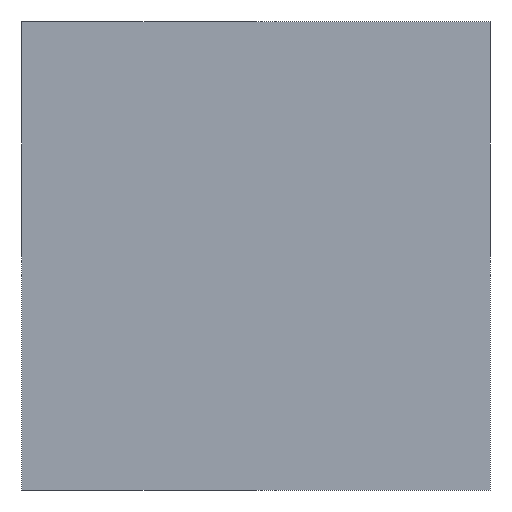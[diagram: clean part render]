
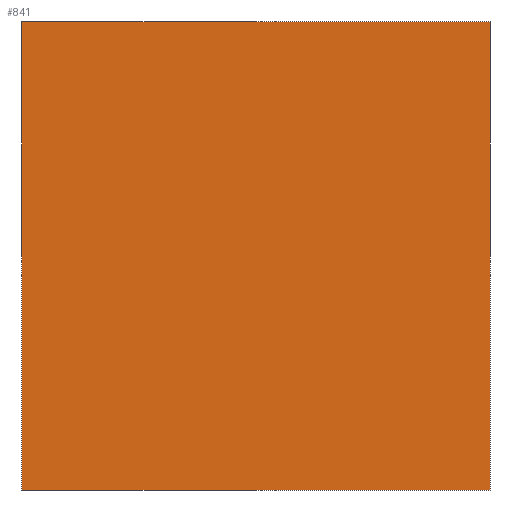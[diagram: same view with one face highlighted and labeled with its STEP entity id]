
A CAD part, front view. The second image highlights one B-rep face of the part: STEP entity #841.
In plain terms, the highlighted planar face has unit normal (0, -1, 0).
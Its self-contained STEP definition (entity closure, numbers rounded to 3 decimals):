
#96 = CARTESIAN_POINT ( 'NONE',  ( -25., -55., 50. ) ) ;
#98 = CARTESIAN_POINT ( 'NONE',  ( 25., -55., 50. ) ) ;
#154 = DIRECTION ( 'NONE',  ( 0., 0., 1. ) ) ;
#221 = ORIENTED_EDGE ( 'NONE', *, *, #799, .T. ) ;
#224 = LINE ( 'NONE', #447, #394 ) ;
#297 = VECTOR ( 'NONE', #442, 1000. ) ;
#298 = DIRECTION ( 'NONE',  ( 0., 0., -1. ) ) ;
#364 = EDGE_CURVE ( 'NONE', #677, #615, #842, .T. ) ;
#367 = ORIENTED_EDGE ( 'NONE', *, *, #571, .T. ) ;
#373 = LINE ( 'NONE', #711, #297 ) ;
#377 = PLANE ( 'NONE',  #537 ) ;
#394 = VECTOR ( 'NONE', #298, 1000. ) ;
#400 = VECTOR ( 'NONE', #868, 1000. ) ;
#418 = CARTESIAN_POINT ( 'NONE',  ( -25., -55., 50. ) ) ;
#442 = DIRECTION ( 'NONE',  ( 0., 0., -1. ) ) ;
#447 = CARTESIAN_POINT ( 'NONE',  ( -25., -55., 50. ) ) ;
#488 = VERTEX_POINT ( 'NONE', #664 ) ;
#505 = CARTESIAN_POINT ( 'NONE',  ( -25., -55., 0. ) ) ;
#517 = DIRECTION ( 'NONE',  ( 0., 1., 0. ) ) ;
#537 = AXIS2_PLACEMENT_3D ( 'NONE', #96, #517, #154 ) ;
#561 = CARTESIAN_POINT ( 'NONE',  ( -25., -55., 50. ) ) ;
#570 = VECTOR ( 'NONE', #776, 1000. ) ;
#571 = EDGE_CURVE ( 'NONE', #488, #588, #879, .T. ) ;
#588 = VERTEX_POINT ( 'NONE', #858 ) ;
#615 = VERTEX_POINT ( 'NONE', #98 ) ;
#662 = FACE_OUTER_BOUND ( 'NONE', #864, .T. ) ;
#664 = CARTESIAN_POINT ( 'NONE',  ( -25., -55., 0. ) ) ;
#677 = VERTEX_POINT ( 'NONE', #418 ) ;
#711 = CARTESIAN_POINT ( 'NONE',  ( 25., -55., 50. ) ) ;
#730 = ORIENTED_EDGE ( 'NONE', *, *, #883, .F. ) ;
#751 = ORIENTED_EDGE ( 'NONE', *, *, #364, .F. ) ;
#776 = DIRECTION ( 'NONE',  ( 1., 0., 0. ) ) ;
#799 = EDGE_CURVE ( 'NONE', #677, #488, #224, .T. ) ;
#841 = ADVANCED_FACE ( 'NONE', ( #662 ), #377, .F. ) ;
#842 = LINE ( 'NONE', #561, #570 ) ;
#858 = CARTESIAN_POINT ( 'NONE',  ( 25., -55., 0. ) ) ;
#864 = EDGE_LOOP ( 'NONE', ( #367, #730, #751, #221 ) ) ;
#868 = DIRECTION ( 'NONE',  ( 1., 0., 0. ) ) ;
#879 = LINE ( 'NONE', #505, #400 ) ;
#883 = EDGE_CURVE ( 'NONE', #615, #588, #373, .T. ) ;
